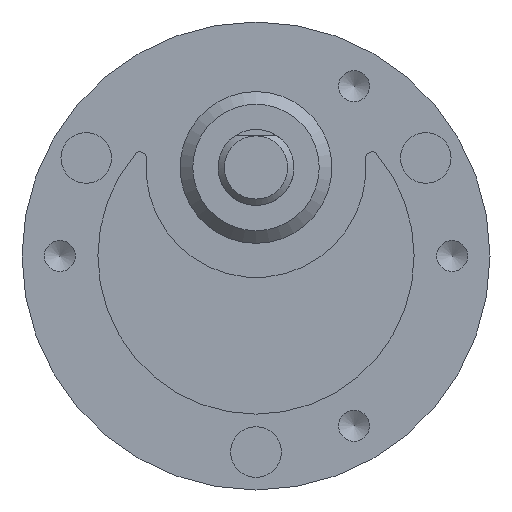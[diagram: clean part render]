
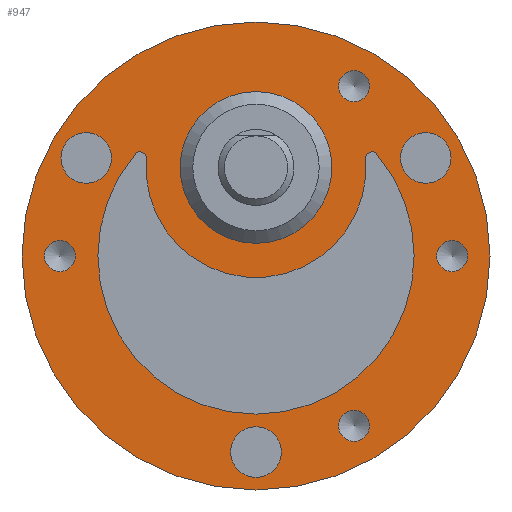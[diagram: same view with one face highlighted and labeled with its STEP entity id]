
A CAD part, front view. The second image highlights one B-rep face of the part: STEP entity #947.
In plain terms, the highlighted planar face has unit normal (0, -1, 0).
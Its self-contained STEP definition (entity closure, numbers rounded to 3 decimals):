
#123=CARTESIAN_POINT('',(12.423,0.0,9.482));
#124=VERTEX_POINT('',#123);
#125=CARTESIAN_POINT('',(13.423,0.0,7.75));
#126=DIRECTION('',(0.0,1.0,0.0));
#127=DIRECTION('',(0.5,0.0,-0.866));
#128=AXIS2_PLACEMENT_3D('',#125,#126,#127);
#129=CIRCLE('',#128,2.);
#130=EDGE_CURVE('',#124,#124,#129,.T.);
#160=CARTESIAN_POINT('',(-14.423,0.0,6.018));
#161=VERTEX_POINT('',#160);
#162=CARTESIAN_POINT('',(-13.423,0.0,7.75));
#163=DIRECTION('',(0.0,1.,0.0));
#164=DIRECTION('',(0.5,0.0,0.866));
#165=AXIS2_PLACEMENT_3D('',#162,#163,#164);
#166=CIRCLE('',#165,2.0);
#167=EDGE_CURVE('',#161,#161,#166,.T.);
#197=CARTESIAN_POINT('',(2.0,0.0,-15.5));
#198=VERTEX_POINT('',#197);
#199=CARTESIAN_POINT('',(0.0,0.0,-15.5));
#200=DIRECTION('',(0.0,1.0,0.0));
#201=DIRECTION('',(-1.0,0.0,0.0));
#202=AXIS2_PLACEMENT_3D('',#199,#200,#201);
#203=CIRCLE('',#202,2.0);
#204=EDGE_CURVE('',#198,#198,#203,.T.);
#385=CARTESIAN_POINT('',(6.,0.0,7.));
#386=VERTEX_POINT('',#385);
#387=CARTESIAN_POINT('',(0.0,0.0,7.));
#388=DIRECTION('',(0.0,1.0,0.0));
#389=DIRECTION('',(-1.0,0.0,0.0));
#390=AXIS2_PLACEMENT_3D('',#387,#388,#389);
#391=CIRCLE('',#390,6.);
#392=EDGE_CURVE('',#386,#386,#391,.T.);
#476=CARTESIAN_POINT('',(16.73,0.0,0.0));
#477=VERTEX_POINT('',#476);
#478=CARTESIAN_POINT('',(15.5,0.0,0.0));
#479=DIRECTION('',(0.0,1.0,0.0));
#480=DIRECTION('',(1.0,0.0,0.0));
#481=AXIS2_PLACEMENT_3D('',#478,#479,#480);
#482=CIRCLE('',#481,1.23);
#483=EDGE_CURVE('',#477,#477,#482,.T.);
#555=CARTESIAN_POINT('',(-14.27,0.0,0.0));
#556=VERTEX_POINT('',#555);
#557=CARTESIAN_POINT('',(-15.5,0.0,0.0));
#558=DIRECTION('',(0.0,1.0,0.0));
#559=DIRECTION('',(1.0,0.0,0.0));
#560=AXIS2_PLACEMENT_3D('',#557,#558,#559);
#561=CIRCLE('',#560,1.23);
#562=EDGE_CURVE('',#556,#556,#561,.T.);
#634=CARTESIAN_POINT('',(8.979,0.0,13.423));
#635=VERTEX_POINT('',#634);
#636=CARTESIAN_POINT('',(7.75,0.0,13.423));
#637=DIRECTION('',(0.0,1.0,0.0));
#638=DIRECTION('',(1.0,0.0,0.0));
#639=AXIS2_PLACEMENT_3D('',#636,#637,#638);
#640=CIRCLE('',#639,1.23);
#641=EDGE_CURVE('',#635,#635,#640,.T.);
#713=CARTESIAN_POINT('',(8.979,0.0,-13.423));
#714=VERTEX_POINT('',#713);
#715=CARTESIAN_POINT('',(7.75,0.0,-13.423));
#716=DIRECTION('',(0.0,1.0,0.0));
#717=DIRECTION('',(1.0,0.0,0.0));
#718=AXIS2_PLACEMENT_3D('',#715,#716,#717);
#719=CIRCLE('',#718,1.23);
#720=EDGE_CURVE('',#714,#714,#719,.T.);
#744=CARTESIAN_POINT('',(-9.552,0.0,8.063));
#745=VERTEX_POINT('',#744);
#752=CARTESIAN_POINT('',(9.552,0.0,8.063));
#753=VERTEX_POINT('',#752);
#754=CARTESIAN_POINT('',(0.0,0.0,0.0));
#755=DIRECTION('',(0.0,1.0,0.0));
#756=DIRECTION('',(0.764,0.0,-0.645));
#757=AXIS2_PLACEMENT_3D('',#754,#755,#756);
#758=CIRCLE('',#757,12.5);
#759=EDGE_CURVE('',#753,#745,#758,.T.);
#785=CARTESIAN_POINT('',(8.672,0.0,7.7));
#786=VERTEX_POINT('',#785);
#787=CARTESIAN_POINT('',(9.17,0.0,7.74));
#788=DIRECTION('',(0.0,1.,0.0));
#789=DIRECTION('',(-0.764,0.0,-0.645));
#790=AXIS2_PLACEMENT_3D('',#787,#788,#789);
#791=CIRCLE('',#790,0.5);
#792=EDGE_CURVE('',#786,#753,#791,.T.);
#818=CARTESIAN_POINT('',(-8.672,0.0,7.7));
#819=VERTEX_POINT('',#818);
#820=CARTESIAN_POINT('',(0.0,0.0,7.));
#821=DIRECTION('',(0.0,-1.,0.0));
#822=DIRECTION('',(-0.997,0.0,0.08));
#823=AXIS2_PLACEMENT_3D('',#820,#821,#822);
#824=CIRCLE('',#823,8.7);
#825=EDGE_CURVE('',#819,#786,#824,.T.);
#849=CARTESIAN_POINT('',(-9.17,0.0,7.74));
#850=DIRECTION('',(0.0,1.0,0.0));
#851=DIRECTION('',(-0.997,0.0,0.08));
#852=AXIS2_PLACEMENT_3D('',#849,#850,#851);
#853=CIRCLE('',#852,0.5);
#854=EDGE_CURVE('',#745,#819,#853,.T.);
#888=CARTESIAN_POINT('',(-18.5,0.0,0.));
#889=VERTEX_POINT('',#888);
#890=CARTESIAN_POINT('',(0.0,0.0,0.0));
#891=DIRECTION('',(0.0,-1.0,0.0));
#892=DIRECTION('',(1.0,0.0,0.0));
#893=AXIS2_PLACEMENT_3D('',#890,#891,#892);
#894=CIRCLE('',#893,18.5);
#895=EDGE_CURVE('',#889,#889,#894,.T.);
#909=CARTESIAN_POINT('',(0.0,0.0,0.0));
#910=DIRECTION('',(0.0,-1.0,0.0));
#911=DIRECTION('',(0.0,0.0,-1.0));
#912=AXIS2_PLACEMENT_3D('',#909,#910,#911);
#913=PLANE('',#912);
#914=ORIENTED_EDGE('',*,*,#895,.T.);
#915=EDGE_LOOP('',(#914));
#916=FACE_OUTER_BOUND('',#915,.T.);
#917=ORIENTED_EDGE('',*,*,#130,.T.);
#918=EDGE_LOOP('',(#917));
#919=FACE_BOUND('',#918,.T.);
#920=ORIENTED_EDGE('',*,*,#167,.T.);
#921=EDGE_LOOP('',(#920));
#922=FACE_BOUND('',#921,.T.);
#923=ORIENTED_EDGE('',*,*,#204,.T.);
#924=EDGE_LOOP('',(#923));
#925=FACE_BOUND('',#924,.T.);
#926=ORIENTED_EDGE('',*,*,#483,.T.);
#927=EDGE_LOOP('',(#926));
#928=FACE_BOUND('',#927,.T.);
#929=ORIENTED_EDGE('',*,*,#562,.T.);
#930=EDGE_LOOP('',(#929));
#931=FACE_BOUND('',#930,.T.);
#932=ORIENTED_EDGE('',*,*,#641,.T.);
#933=EDGE_LOOP('',(#932));
#934=FACE_BOUND('',#933,.T.);
#935=ORIENTED_EDGE('',*,*,#720,.T.);
#936=EDGE_LOOP('',(#935));
#937=FACE_BOUND('',#936,.T.);
#938=ORIENTED_EDGE('',*,*,#759,.T.);
#939=ORIENTED_EDGE('',*,*,#854,.T.);
#940=ORIENTED_EDGE('',*,*,#825,.T.);
#941=ORIENTED_EDGE('',*,*,#792,.T.);
#942=EDGE_LOOP('',(#938,#939,#940,#941));
#943=FACE_BOUND('',#942,.T.);
#944=ORIENTED_EDGE('',*,*,#392,.T.);
#945=EDGE_LOOP('',(#944));
#946=FACE_BOUND('',#945,.T.);
#947=ADVANCED_FACE('',(#916,#919,#922,#925,#928,#931,#934,#937,#943,#946),#913,.T.);
